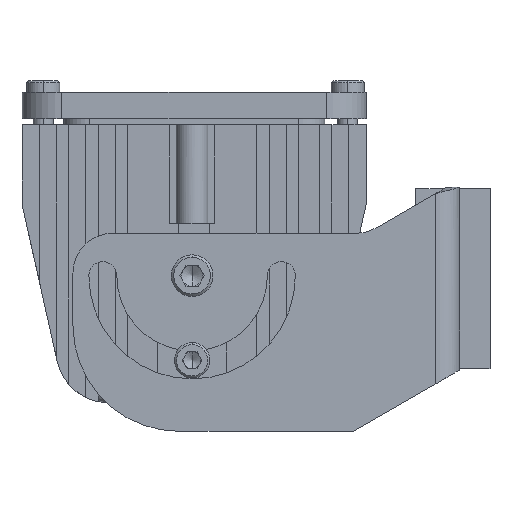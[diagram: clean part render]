
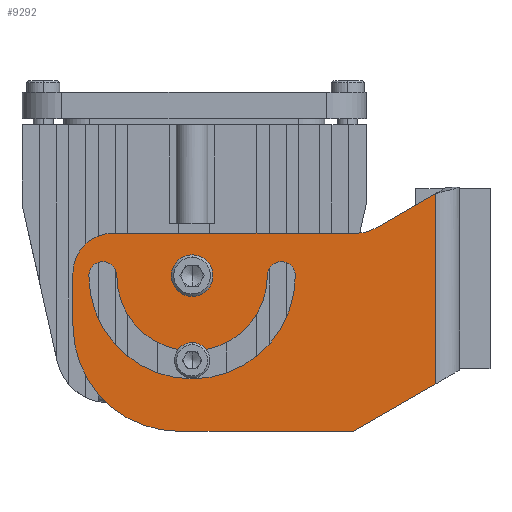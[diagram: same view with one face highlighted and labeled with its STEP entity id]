
A CAD part, left-side view. The second image highlights one B-rep face of the part: STEP entity #9292.
In plain terms, the highlighted planar face has unit normal (-1, 0, 0).
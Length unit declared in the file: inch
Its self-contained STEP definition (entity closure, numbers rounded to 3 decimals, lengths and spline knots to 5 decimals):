
#239 = VERTEX_POINT ( 'NONE', #31288 ) ;
#361 = VERTEX_POINT ( 'NONE', #18213 ) ;
#382 = DIRECTION ( 'NONE',  ( 0., 0., 1. ) ) ;
#642 = VECTOR ( 'NONE', #23641, 39.37008 ) ;
#657 = CARTESIAN_POINT ( 'NONE',  ( -2.28125, 0.7685, -0.088 ) ) ;
#937 = CARTESIAN_POINT ( 'NONE',  ( -2.28125, -2.38175, 0.79218 ) ) ;
#1386 = DIRECTION ( 'NONE',  ( 0., 0., 1. ) ) ;
#1804 = VECTOR ( 'NONE', #28609, 39.37008 ) ;
#2541 = CARTESIAN_POINT ( 'NONE',  ( -2.28125, -0.6925, -0.113 ) ) ;
#3030 = FACE_BOUND ( 'NONE', #17277, .T. ) ;
#3065 = VECTOR ( 'NONE', #23387, 39.37008 ) ;
#3242 = DIRECTION ( 'NONE',  ( -1., 0., 0. ) ) ;
#3369 = CIRCLE ( 'NONE', #29280, 0.975 ) ;
#3442 = DIRECTION ( 'NONE',  ( 0., 0., 1. ) ) ;
#3724 = PLANE ( 'NONE',  #28316 ) ;
#3920 = FACE_OUTER_BOUND ( 'NONE', #9042, .T. ) ;
#4221 = CARTESIAN_POINT ( 'NONE',  ( -2.28125, 0.1435, -1.58282 ) ) ;
#5033 = EDGE_CURVE ( 'NONE', #13000, #5534, #18416, .T. ) ;
#5151 = VERTEX_POINT ( 'NONE', #7395 ) ;
#5285 = CARTESIAN_POINT ( 'NONE',  ( -2.28125, -0.8245, -0.113 ) ) ;
#5534 = VERTEX_POINT ( 'NONE', #4221 ) ;
#5832 = CARTESIAN_POINT ( 'NONE',  ( -2.28125, 1.1435, -0.088 ) ) ;
#5846 = AXIS2_PLACEMENT_3D ( 'NONE', #32788, #16189, #35589 ) ;
#5853 = VERTEX_POINT ( 'NONE', #35209 ) ;
#6154 = CARTESIAN_POINT ( 'NONE',  ( -2.28125, -2.38175, -1.58282 ) ) ;
#6328 = ORIENTED_EDGE ( 'NONE', *, *, #19546, .T. ) ;
#6499 = ORIENTED_EDGE ( 'NONE', *, *, #9855, .T. ) ;
#6508 = DIRECTION ( 'NONE',  ( 0., 0., 1. ) ) ;
#6624 = CARTESIAN_POINT ( 'NONE',  ( -2.28125, 0.0185, -0.2745 ) ) ;
#6783 = CARTESIAN_POINT ( 'NONE',  ( -2.28125, -2.163, -1.20393 ) ) ;
#6786 = DIRECTION ( 'NONE',  ( 1., 0., 0. ) ) ;
#7200 = CIRCLE ( 'NONE', #30251, 0.1615 ) ;
#7286 = LINE ( 'NONE', #24155, #28492 ) ;
#7395 = CARTESIAN_POINT ( 'NONE',  ( -2.28125, -1.71877, 0.33724 ) ) ;
#7676 = ORIENTED_EDGE ( 'NONE', *, *, #8058, .T. ) ;
#7932 = VERTEX_POINT ( 'NONE', #2541 ) ;
#8058 = EDGE_CURVE ( 'NONE', #5853, #7932, #25151, .T. ) ;
#8064 = DIRECTION ( 'NONE',  ( 0., 1., 0. ) ) ;
#8569 = VERTEX_POINT ( 'NONE', #5832 ) ;
#8761 = EDGE_CURVE ( 'NONE', #32906, #13000, #10805, .T. ) ;
#8841 = CARTESIAN_POINT ( 'NONE',  ( -2.28125, 1.1435, -0.58282 ) ) ;
#9042 = EDGE_LOOP ( 'NONE', ( #25541, #33819, #31862, #10233, #22951, #19075, #10615, #6328, #19836 ) ) ;
#9158 = LINE ( 'NONE', #14657, #1804 ) ;
#9177 = DIRECTION ( 'NONE',  ( -1., 0., 0. ) ) ;
#9292 = ADVANCED_FACE ( 'NONE', ( #3920, #3030, #18649 ), #3724, .T. ) ;
#9622 = EDGE_CURVE ( 'NONE', #7932, #239, #12961, .T. ) ;
#9855 = EDGE_CURVE ( 'NONE', #34853, #5853, #17269, .T. ) ;
#10177 = VECTOR ( 'NONE', #14471, 39.37008 ) ;
#10233 = ORIENTED_EDGE ( 'NONE', *, *, #12377, .T. ) ;
#10307 = EDGE_CURVE ( 'NONE', #239, #34853, #3369, .T. ) ;
#10615 = ORIENTED_EDGE ( 'NONE', *, *, #21381, .F. ) ;
#10805 = LINE ( 'NONE', #6783, #3065 ) ;
#10887 = CARTESIAN_POINT ( 'NONE',  ( -2.28125, -2.38175, 0.287 ) ) ;
#11276 = CIRCLE ( 'NONE', #13759, 1. ) ;
#11345 = CARTESIAN_POINT ( 'NONE',  ( -2.28125, -1.50675, -1.58282 ) ) ;
#12369 = VERTEX_POINT ( 'NONE', #16846 ) ;
#12377 = EDGE_CURVE ( 'NONE', #16966, #5534, #11276, .T. ) ;
#12745 = CARTESIAN_POINT ( 'NONE',  ( -2.28125, 0.0185, -0.113 ) ) ;
#12961 = CIRCLE ( 'NONE', #29511, 0.132 ) ;
#13000 = VERTEX_POINT ( 'NONE', #11345 ) ;
#13473 = ORIENTED_EDGE ( 'NONE', *, *, #10307, .T. ) ;
#13647 = DIRECTION ( 'NONE',  ( 0., 1., 0. ) ) ;
#13759 = AXIS2_PLACEMENT_3D ( 'NONE', #33562, #16969, #382 ) ;
#14471 = DIRECTION ( 'NONE',  ( 0., 1., 0. ) ) ;
#14657 = CARTESIAN_POINT ( 'NONE',  ( -2.28125, -1.38459, 0.1443 ) ) ;
#15303 = CARTESIAN_POINT ( 'NONE',  ( -2.28125, 0.0185, -0.113 ) ) ;
#15361 = LINE ( 'NONE', #20854, #642 ) ;
#15529 = DIRECTION ( 'NONE',  ( 0., 0., -1. ) ) ;
#15720 = VERTEX_POINT ( 'NONE', #27930 ) ;
#16189 = DIRECTION ( 'NONE',  ( 1., 0., 0. ) ) ;
#16846 = CARTESIAN_POINT ( 'NONE',  ( -2.28125, 0.7685, 0.287 ) ) ;
#16966 = VERTEX_POINT ( 'NONE', #8841 ) ;
#16969 = DIRECTION ( 'NONE',  ( -1., 0., 0. ) ) ;
#17269 = CIRCLE ( 'NONE', #5846, 0.132 ) ;
#17277 = EDGE_LOOP ( 'NONE', ( #27384, #24341 ) ) ;
#17355 = ORIENTED_EDGE ( 'NONE', *, *, #9622, .T. ) ;
#17987 = DIRECTION ( 'NONE',  ( 1., 0., 0. ) ) ;
#18112 = DIRECTION ( 'NONE',  ( 0., 1., 0. ) ) ;
#18213 = CARTESIAN_POINT ( 'NONE',  ( -2.28125, 0.0185, 0.0485 ) ) ;
#18416 = LINE ( 'NONE', #6154, #10177 ) ;
#18649 = FACE_BOUND ( 'NONE', #20562, .T. ) ;
#19075 = ORIENTED_EDGE ( 'NONE', *, *, #8761, .F. ) ;
#19546 = EDGE_CURVE ( 'NONE', #34521, #5151, #9158, .T. ) ;
#19836 = ORIENTED_EDGE ( 'NONE', *, *, #25159, .T. ) ;
#19839 = CARTESIAN_POINT ( 'NONE',  ( -2.28125, 0.0185, -0.113 ) ) ;
#20041 = DIRECTION ( 'NONE',  ( -1., 0., 0. ) ) ;
#20137 = AXIS2_PLACEMENT_3D ( 'NONE', #657, #20041, #3442 ) ;
#20562 = EDGE_LOOP ( 'NONE', ( #6499, #7676, #17355, #13473 ) ) ;
#20854 = CARTESIAN_POINT ( 'NONE',  ( -2.28125, 1.1435, 0.79218 ) ) ;
#21381 = EDGE_CURVE ( 'NONE', #34521, #32906, #7286, .T. ) ;
#21848 = CIRCLE ( 'NONE', #35182, 0.375 ) ;
#22624 = DIRECTION ( 'NONE',  ( 0., 1., 0. ) ) ;
#22951 = ORIENTED_EDGE ( 'NONE', *, *, #5033, .F. ) ;
#23192 = CARTESIAN_POINT ( 'NONE',  ( -2.28125, -2.28175, 0.66228 ) ) ;
#23387 = DIRECTION ( 'NONE',  ( 0., 0.866, -0.5 ) ) ;
#23390 = CARTESIAN_POINT ( 'NONE',  ( -2.28125, 0.0185, -0.113 ) ) ;
#23641 = DIRECTION ( 'NONE',  ( 0., 0., -1. ) ) ;
#23813 = CIRCLE ( 'NONE', #34143, 0.1615 ) ;
#24014 = EDGE_CURVE ( 'NONE', #8569, #16966, #15361, .T. ) ;
#24155 = CARTESIAN_POINT ( 'NONE',  ( -2.28125, -2.28175, 0.79218 ) ) ;
#24341 = ORIENTED_EDGE ( 'NONE', *, *, #33385, .T. ) ;
#24651 = DIRECTION ( 'NONE',  ( 1., 0., 0. ) ) ;
#25151 = CIRCLE ( 'NONE', #31377, 0.711 ) ;
#25159 = EDGE_CURVE ( 'NONE', #5151, #15720, #21848, .T. ) ;
#25541 = ORIENTED_EDGE ( 'NONE', *, *, #33171, .T. ) ;
#26179 = DIRECTION ( 'NONE',  ( 0., 0., -1. ) ) ;
#27384 = ORIENTED_EDGE ( 'NONE', *, *, #30771, .T. ) ;
#27646 = EDGE_CURVE ( 'NONE', #12369, #8569, #33836, .T. ) ;
#27930 = CARTESIAN_POINT ( 'NONE',  ( -2.28125, -1.53127, 0.287 ) ) ;
#27999 = LINE ( 'NONE', #10887, #28865 ) ;
#28316 = AXIS2_PLACEMENT_3D ( 'NONE', #937, #9177, #6508 ) ;
#28492 = VECTOR ( 'NONE', #35194, 39.37008 ) ;
#28609 = DIRECTION ( 'NONE',  ( 0., 0.866, -0.5 ) ) ;
#28865 = VECTOR ( 'NONE', #13647, 39.37008 ) ;
#29280 = AXIS2_PLACEMENT_3D ( 'NONE', #15303, #34723, #18112 ) ;
#29511 = AXIS2_PLACEMENT_3D ( 'NONE', #5285, #24651, #8064 ) ;
#30251 = AXIS2_PLACEMENT_3D ( 'NONE', #23390, #6786, #26179 ) ;
#30433 = VERTEX_POINT ( 'NONE', #6624 ) ;
#30771 = EDGE_CURVE ( 'NONE', #30433, #361, #23813, .T. ) ;
#31288 = CARTESIAN_POINT ( 'NONE',  ( -2.28125, -0.9565, -0.113 ) ) ;
#31377 = AXIS2_PLACEMENT_3D ( 'NONE', #19839, #3242, #22624 ) ;
#31862 = ORIENTED_EDGE ( 'NONE', *, *, #24014, .T. ) ;
#32158 = DIRECTION ( 'NONE',  ( 1., 0., 0. ) ) ;
#32788 = CARTESIAN_POINT ( 'NONE',  ( -2.28125, 0.8615, -0.113 ) ) ;
#32906 = VERTEX_POINT ( 'NONE', #34666 ) ;
#33171 = EDGE_CURVE ( 'NONE', #15720, #12369, #27999, .T. ) ;
#33385 = EDGE_CURVE ( 'NONE', #361, #30433, #7200, .T. ) ;
#33562 = CARTESIAN_POINT ( 'NONE',  ( -2.28125, 0.1435, -0.58282 ) ) ;
#33819 = ORIENTED_EDGE ( 'NONE', *, *, #27646, .T. ) ;
#33836 = CIRCLE ( 'NONE', #20137, 0.375 ) ;
#34143 = AXIS2_PLACEMENT_3D ( 'NONE', #12745, #32158, #15529 ) ;
#34521 = VERTEX_POINT ( 'NONE', #23192 ) ;
#34595 = CARTESIAN_POINT ( 'NONE',  ( -2.28125, -1.53127, 0.662 ) ) ;
#34666 = CARTESIAN_POINT ( 'NONE',  ( -2.28125, -2.28175, -1.13537 ) ) ;
#34723 = DIRECTION ( 'NONE',  ( 1., 0., 0. ) ) ;
#34853 = VERTEX_POINT ( 'NONE', #35761 ) ;
#35182 = AXIS2_PLACEMENT_3D ( 'NONE', #34595, #17987, #1386 ) ;
#35194 = DIRECTION ( 'NONE',  ( 0., 0., -1. ) ) ;
#35209 = CARTESIAN_POINT ( 'NONE',  ( -2.28125, 0.7295, -0.113 ) ) ;
#35589 = DIRECTION ( 'NONE',  ( 0., 1., 0. ) ) ;
#35761 = CARTESIAN_POINT ( 'NONE',  ( -2.28125, 0.9935, -0.113 ) ) ;
